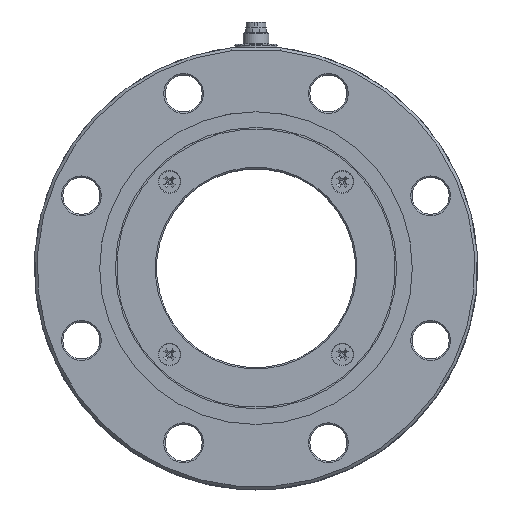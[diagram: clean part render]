
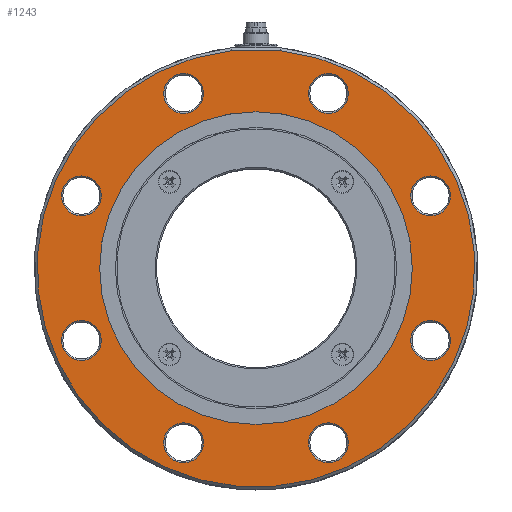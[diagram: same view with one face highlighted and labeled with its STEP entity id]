
A CAD part, top view. The second image highlights one B-rep face of the part: STEP entity #1243.
In plain terms, the highlighted planar face has unit normal (0, 0, 1).
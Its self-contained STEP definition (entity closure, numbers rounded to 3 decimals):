
#1243 = ADVANCED_FACE( '', ( #2738, #2739, #2740, #2741, #2742, #2743, #2744, #2745, #2746, #2747 ), #2748, .T. );
#2738 = FACE_OUTER_BOUND( '', #4726, .T. );
#2739 = FACE_BOUND( '', #4727, .T. );
#2740 = FACE_BOUND( '', #4728, .T. );
#2741 = FACE_BOUND( '', #4729, .T. );
#2742 = FACE_BOUND( '', #4730, .T. );
#2743 = FACE_BOUND( '', #4731, .T. );
#2744 = FACE_BOUND( '', #4732, .T. );
#2745 = FACE_BOUND( '', #4733, .T. );
#2746 = FACE_BOUND( '', #4734, .T. );
#2747 = FACE_BOUND( '', #4735, .T. );
#2748 = PLANE( '', #4736 );
#4726 = EDGE_LOOP( '', ( #7595, #7596 ) );
#4727 = EDGE_LOOP( '', ( #7597 ) );
#4728 = EDGE_LOOP( '', ( #7598 ) );
#4729 = EDGE_LOOP( '', ( #7599 ) );
#4730 = EDGE_LOOP( '', ( #7600 ) );
#4731 = EDGE_LOOP( '', ( #7601 ) );
#4732 = EDGE_LOOP( '', ( #7602 ) );
#4733 = EDGE_LOOP( '', ( #7603 ) );
#4734 = EDGE_LOOP( '', ( #7604 ) );
#4735 = EDGE_LOOP( '', ( #7605 ) );
#4736 = AXIS2_PLACEMENT_3D( '', #7606, #7607, #7608 );
#7595 = ORIENTED_EDGE( '', *, *, #9599, .T. );
#7596 = ORIENTED_EDGE( '', *, *, #10349, .T. );
#7597 = ORIENTED_EDGE( '', *, *, #10336, .T. );
#7598 = ORIENTED_EDGE( '', *, *, #10350, .T. );
#7599 = ORIENTED_EDGE( '', *, *, #10084, .T. );
#7600 = ORIENTED_EDGE( '', *, *, #10131, .T. );
#7601 = ORIENTED_EDGE( '', *, *, #10351, .T. );
#7602 = ORIENTED_EDGE( '', *, *, #9505, .T. );
#7603 = ORIENTED_EDGE( '', *, *, #10110, .T. );
#7604 = ORIENTED_EDGE( '', *, *, #10146, .T. );
#7605 = ORIENTED_EDGE( '', *, *, #10141, .T. );
#7606 = CARTESIAN_POINT( '', ( 0., 0., 33.5 ) );
#7607 = DIRECTION( '', ( 0., 0., 1. ) );
#7608 = DIRECTION( '', ( 1., 0., 0. ) );
#9505 = EDGE_CURVE( '', #10935, #10935, #10936, .F. );
#9599 = EDGE_CURVE( '', #11100, #11104, #11106, .T. );
#10084 = EDGE_CURVE( '', #11891, #11891, #11892, .F. );
#10110 = EDGE_CURVE( '', #11930, #11930, #11931, .F. );
#10131 = EDGE_CURVE( '', #11962, #11962, #11963, .F. );
#10141 = EDGE_CURVE( '', #11976, #11976, #11977, .T. );
#10146 = EDGE_CURVE( '', #11983, #11983, #11984, .F. );
#10336 = EDGE_CURVE( '', #12258, #12258, #12259, .F. );
#10349 = EDGE_CURVE( '', #11104, #11100, #12278, .T. );
#10350 = EDGE_CURVE( '', #12279, #12279, #12280, .F. );
#10351 = EDGE_CURVE( '', #12281, #12281, #12282, .F. );
#10935 = VERTEX_POINT( '', #13036 );
#10936 = CIRCLE( '', #13037, 7. );
#11100 = VERTEX_POINT( '', #13325 );
#11104 = VERTEX_POINT( '', #13332 );
#11106 = CIRCLE( '', #13337, 77. );
#11891 = VERTEX_POINT( '', #14530 );
#11892 = CIRCLE( '', #14531, 7. );
#11930 = VERTEX_POINT( '', #14575 );
#11931 = CIRCLE( '', #14576, 7. );
#11962 = VERTEX_POINT( '', #14610 );
#11963 = CIRCLE( '', #14611, 7. );
#11976 = VERTEX_POINT( '', #14626 );
#11977 = CIRCLE( '', #14627, 55. );
#11983 = VERTEX_POINT( '', #14635 );
#11984 = CIRCLE( '', #14636, 7. );
#12258 = VERTEX_POINT( '', #14969 );
#12259 = CIRCLE( '', #14970, 7. );
#12278 = LINE( '', #14991, #14992 );
#12279 = VERTEX_POINT( '', #14993 );
#12280 = CIRCLE( '', #14994, 7. );
#12281 = VERTEX_POINT( '', #14995 );
#12282 = CIRCLE( '', #14996, 7. );
#13036 = CARTESIAN_POINT( '', ( 32.448, 61.438, 33.5 ) );
#13037 = AXIS2_PLACEMENT_3D( '', #15949, #15950, #15951 );
#13325 = CARTESIAN_POINT( '', ( -8.761, 76.5, 33.5 ) );
#13332 = CARTESIAN_POINT( '', ( 8.761, 76.5, 33.5 ) );
#13337 = AXIS2_PLACEMENT_3D( '', #16076, #16077, #16078 );
#14530 = CARTESIAN_POINT( '', ( 68.438, -25.448, 33.5 ) );
#14531 = AXIS2_PLACEMENT_3D( '', #16720, #16721, #16722 );
#14575 = CARTESIAN_POINT( '', ( -54.438, 25.448, 33.5 ) );
#14576 = AXIS2_PLACEMENT_3D( '', #16759, #16760, #16761 );
#14610 = CARTESIAN_POINT( '', ( -18.448, 61.438, 33.5 ) );
#14611 = AXIS2_PLACEMENT_3D( '', #16792, #16793, #16794 );
#14626 = CARTESIAN_POINT( '', ( -55., 0., 33.5 ) );
#14627 = AXIS2_PLACEMENT_3D( '', #16806, #16807, #16808 );
#14635 = CARTESIAN_POINT( '', ( 68.438, 25.448, 33.5 ) );
#14636 = AXIS2_PLACEMENT_3D( '', #16811, #16812, #16813 );
#14969 = CARTESIAN_POINT( '', ( -54.438, -25.448, 33.5 ) );
#14970 = AXIS2_PLACEMENT_3D( '', #17057, #17058, #17059 );
#14991 = CARTESIAN_POINT( '', ( -8.818, 76.5, 33.5 ) );
#14992 = VECTOR( '', #17077, 1000. );
#14993 = CARTESIAN_POINT( '', ( 32.448, -61.438, 33.5 ) );
#14994 = AXIS2_PLACEMENT_3D( '', #17078, #17079, #17080 );
#14995 = CARTESIAN_POINT( '', ( -18.448, -61.438, 33.5 ) );
#14996 = AXIS2_PLACEMENT_3D( '', #17081, #17082, #17083 );
#15949 = CARTESIAN_POINT( '', ( 25.448, 61.438, 33.5 ) );
#15950 = DIRECTION( '', ( 0., 0., 1. ) );
#15951 = DIRECTION( '', ( 1., 0., 0. ) );
#16076 = CARTESIAN_POINT( '', ( 0., 0., 33.5 ) );
#16077 = DIRECTION( '', ( 0., 0., 1. ) );
#16078 = DIRECTION( '', ( 1., 0., 0. ) );
#16720 = CARTESIAN_POINT( '', ( 61.438, -25.448, 33.5 ) );
#16721 = DIRECTION( '', ( 0., 0., 1. ) );
#16722 = DIRECTION( '', ( 1., 0., 0. ) );
#16759 = CARTESIAN_POINT( '', ( -61.438, 25.448, 33.5 ) );
#16760 = DIRECTION( '', ( 0., 0., 1. ) );
#16761 = DIRECTION( '', ( 1., 0., 0. ) );
#16792 = CARTESIAN_POINT( '', ( -25.448, 61.438, 33.5 ) );
#16793 = DIRECTION( '', ( 0., 0., 1. ) );
#16794 = DIRECTION( '', ( 1., 0., 0. ) );
#16806 = CARTESIAN_POINT( '', ( 0., 0., 33.5 ) );
#16807 = DIRECTION( '', ( 0., 0., -1. ) );
#16808 = DIRECTION( '', ( -1., 0., 0. ) );
#16811 = CARTESIAN_POINT( '', ( 61.438, 25.448, 33.5 ) );
#16812 = DIRECTION( '', ( 0., 0., 1. ) );
#16813 = DIRECTION( '', ( 1., 0., 0. ) );
#17057 = CARTESIAN_POINT( '', ( -61.438, -25.448, 33.5 ) );
#17058 = DIRECTION( '', ( 0., 0., 1. ) );
#17059 = DIRECTION( '', ( 1., 0., 0. ) );
#17077 = DIRECTION( '', ( -1., 0., 0. ) );
#17078 = CARTESIAN_POINT( '', ( 25.448, -61.438, 33.5 ) );
#17079 = DIRECTION( '', ( 0., 0., 1. ) );
#17080 = DIRECTION( '', ( 1., 0., 0. ) );
#17081 = CARTESIAN_POINT( '', ( -25.448, -61.438, 33.5 ) );
#17082 = DIRECTION( '', ( 0., 0., 1. ) );
#17083 = DIRECTION( '', ( 1., 0., 0. ) );
